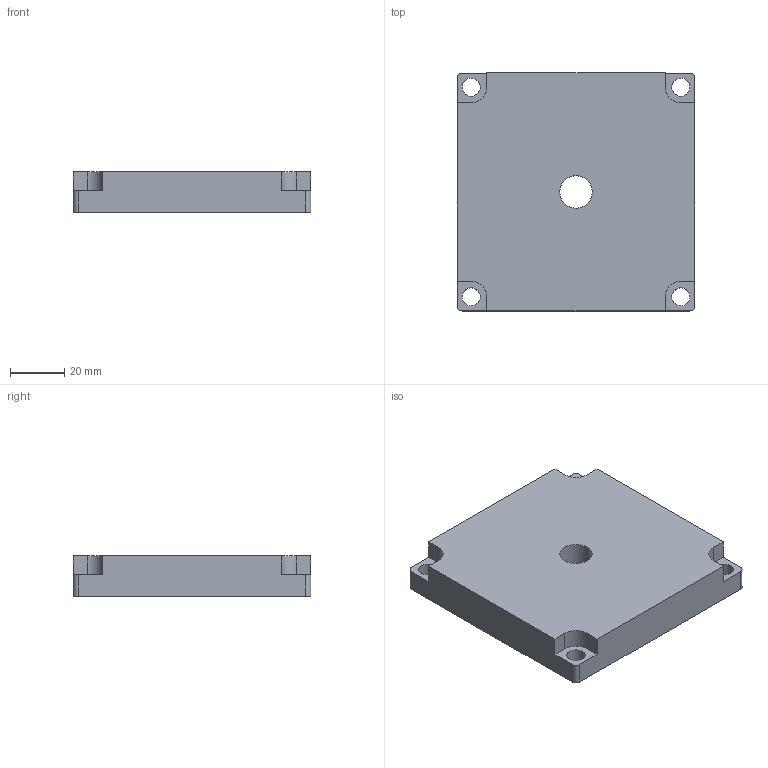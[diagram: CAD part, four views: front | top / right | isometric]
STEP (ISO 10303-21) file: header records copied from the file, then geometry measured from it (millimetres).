
FILE_DESCRIPTION (( 'STEP AP214' ), '1' );
FILE_NAME ('FBFE 88M12.step', '2017-04-05T08:02:51', ( '' ), ( '' ), 'SwSTEP 2.0', 'SolidWorks 2015', '' );
FILE_SCHEMA (( 'AUTOMOTIVE_DESIGN' ));
Length unit declared in the file: millimetre
Products named in the file (1): FBFE 88M12
Bounding box: 88 x 88 x 15 mm (x, y, z)
Volume: 110121.1 mm3; surface area: 21394.9 mm2
Topology: 1 solids, 1 shells, 36 faces, 102 edges, 68 vertices
Faces by surface type: cylinder 18, plane 18
Entity records: 1236 total; most frequent: DIRECTION 212, CARTESIAN_POINT 207, ORIENTED_EDGE 204, EDGE_CURVE 102, AXIS2_PLACEMENT_3D 73, VERTEX_POINT 68, VECTOR 66, LINE 66
